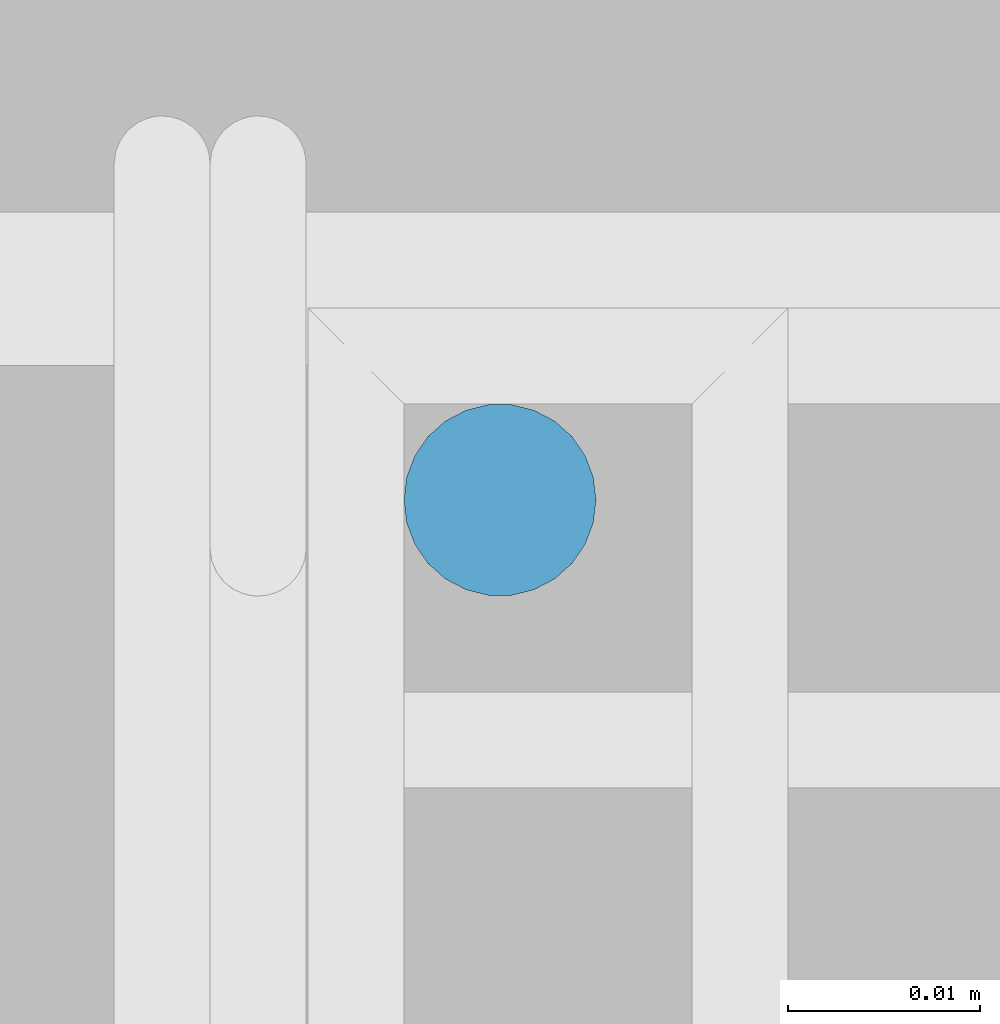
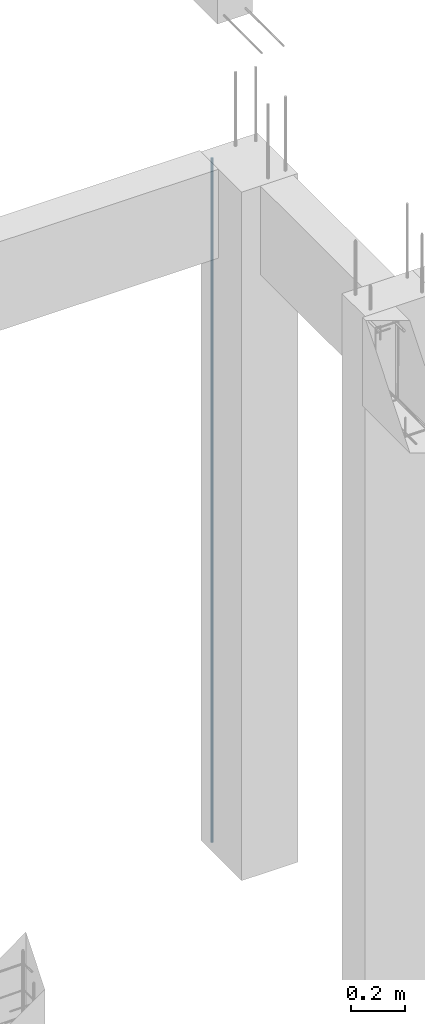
# One storey, part 86 of 236: 1 reinforcing bar.
"""IFC4 building model written with IfcOpenShell, lengths in centimetres."""

from ifc_helpers import new_model, entity, si_unit, derived_unit, frame, origin_with_axes, place, context, project, spatial, element, save


model = new_model("IFC4")

# Units and contexts
model_context = context("Model", 3, precision=1e-05, world=origin_with_axes(), identifier="Body")
ifc_project = project(units=[si_unit("LENGTHUNIT", "METRE", prefix="CENTI"), si_unit("VOLUMEUNIT", "CUBIC_METRE"), si_unit("AREAUNIT", "SQUARE_METRE"), si_unit("POWERUNIT", "WATT"), si_unit("LUMINOUSFLUXUNIT", "LUMEN"), si_unit("ELECTRICCURRENTUNIT", "AMPERE"), si_unit("PRESSUREUNIT", "PASCAL", prefix="KILO"), si_unit("MASSUNIT", "GRAM", prefix="KILO"), si_unit("PLANEANGLEUNIT", "RADIAN"), derived_unit("VOLUMETRICFLOWRATEUNIT", [(si_unit("LENGTHUNIT", "METRE"), 3), (si_unit("TIMEUNIT", "SECOND"), -1)])], contexts=[model_context])

# Site, building, storey
site_placement = place(None, frame((-4000.0, 0.0, 0.0), z_axis=(0.0, 0.0, 1.0), x_axis=(1.0, 0.0, 0.0)))
site = spatial("IfcSite", under=ifc_project, at=site_placement, Name="PADRÃO")
building_placement = place(site_placement, frame((0.0, 0.0, -14.0)))
building = spatial("IfcBuilding", under=site, at=building_placement, Name="CRECHE PRÉ-ESCOLA TIPO 2")
placement_1 = place(building_placement, origin_with_axes())
placement_2 = place(placement_1, frame((0.0, 0.0, 30.0), z_axis=(0.0, 0.0, 1.0), x_axis=(1.0, 0.0, 0.0)))
storey_placement = place(placement_2, frame((0.0, 0.0, 310.0), z_axis=(0.0, 0.0, 1.0), x_axis=(1.0, 0.0, 0.0)))
storey = spatial("IfcBuildingStorey", under=building, at=storey_placement, Name="TERREO", CompositionType="ELEMENT", Elevation=326.0)

# Reinforcing bar
reinforcing_bar_placement = place(storey_placement, frame((3136.02, 1925.52, -2.0), z_axis=(0.0, 0.0, 1.0), x_axis=(1.0, 0.0, 0.0)))
element("IfcReinforcingBar", 1, at=reinforcing_bar_placement, inside=storey, Name="P92 - Longitudinal", BarLength=0.0, CrossSectionArea=7.853981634e-05, NominalDiameter=1.0, PredefinedType="MAIN", context=model_context, shape_type="AdvancedSweptSolid", body=[
    entity("IfcSweptDiskSolid", entity("IfcCompositeCurve", [entity("IfcCompositeCurveSegment", "CONTINUOUS", True, entity("IfcPolyline", [entity("IfcCartesianPoint", [0.0, 0.0, -308.0]), entity("IfcCartesianPoint", [0.0, 0.0, 0.0])]))], False), 0.5),
])

save(model, "model.ifc")
